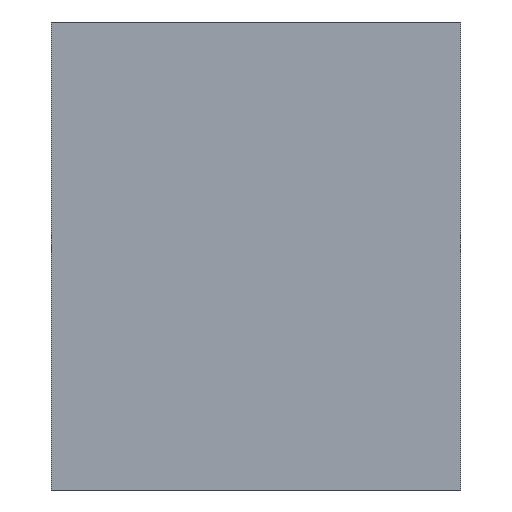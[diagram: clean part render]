
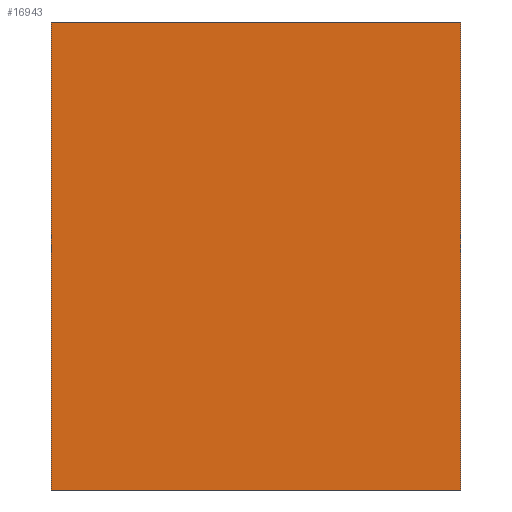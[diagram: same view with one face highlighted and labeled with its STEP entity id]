
A CAD part, left-side view. The second image highlights one B-rep face of the part: STEP entity #16943.
In plain terms, the highlighted planar face has unit normal (-1, 0, 0).
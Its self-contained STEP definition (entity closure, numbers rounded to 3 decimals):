
#1=DIRECTION('',(0.,1.,0.));
#2=VECTOR('',#1,35.);
#3=CARTESIAN_POINT('',(-75.,-17.5,20.));
#4=LINE('',#3,#2);
#45=DIRECTION('',(0.,0.,1.));
#46=VECTOR('',#45,40.);
#47=CARTESIAN_POINT('',(-75.,-17.5,-20.));
#48=LINE('',#47,#46);
#133=DIRECTION('',(0.,1.,0.));
#134=VECTOR('',#133,35.);
#135=CARTESIAN_POINT('',(-75.,-17.5,-20.));
#136=LINE('',#135,#134);
#371=DIRECTION('',(0.,0.,1.));
#372=VECTOR('',#371,40.);
#373=CARTESIAN_POINT('',(-75.,17.5,-20.));
#374=LINE('',#373,#372);
#15836=CARTESIAN_POINT('',(-75.,-17.5,-20.));
#15837=CARTESIAN_POINT('',(-75.,-17.5,20.));
#15838=VERTEX_POINT('',#15836);
#15839=VERTEX_POINT('',#15837);
#15860=CARTESIAN_POINT('',(-75.,17.5,-20.));
#15861=CARTESIAN_POINT('',(-75.,17.5,20.));
#15862=VERTEX_POINT('',#15860);
#15863=VERTEX_POINT('',#15861);
#16930=CARTESIAN_POINT('',(-75.,-17.5,-20.));
#16931=DIRECTION('',(-1.,0.,0.));
#16932=DIRECTION('',(0.,0.,1.));
#16933=AXIS2_PLACEMENT_3D('',#16930,#16931,#16932);
#16934=PLANE('',#16933);
#16935=ORIENTED_EDGE('',*,*,#16886,.F.);
#16937=ORIENTED_EDGE('',*,*,#16936,.T.);
#16939=ORIENTED_EDGE('',*,*,#16938,.T.);
#16940=ORIENTED_EDGE('',*,*,#16848,.F.);
#16941=EDGE_LOOP('',(#16935,#16937,#16939,#16940));
#16942=FACE_OUTER_BOUND('',#16941,.F.);
#16848=EDGE_CURVE('',#15839,#15863,#4,.T.);
#16886=EDGE_CURVE('',#15838,#15839,#48,.T.);
#16936=EDGE_CURVE('',#15838,#15862,#136,.T.);
#16938=EDGE_CURVE('',#15862,#15863,#374,.T.);
#16943=ADVANCED_FACE('',(#16942),#16934,.T.);
